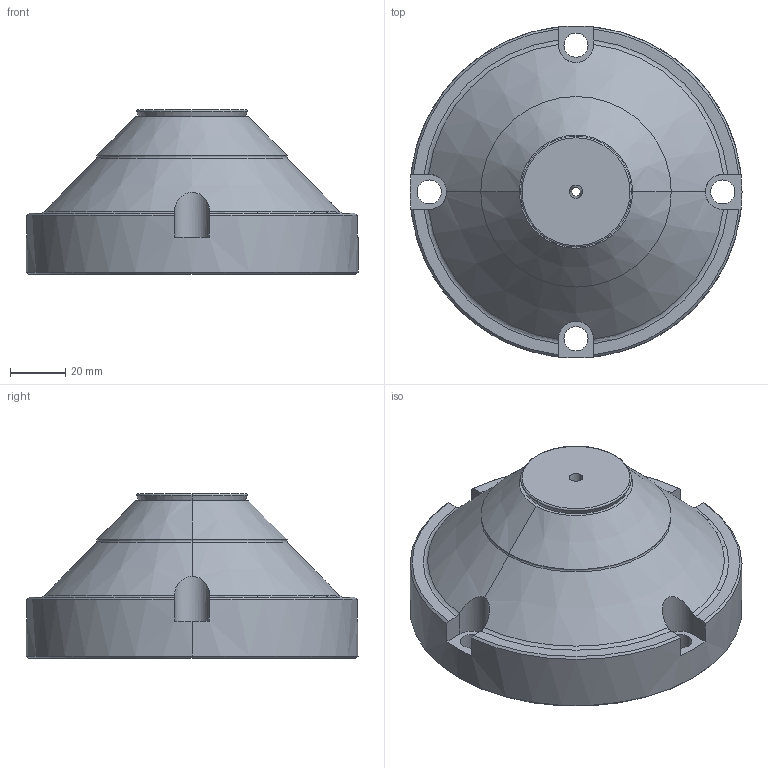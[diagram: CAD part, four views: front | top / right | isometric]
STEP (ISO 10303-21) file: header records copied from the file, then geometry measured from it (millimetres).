
FILE_DESCRIPTION((''),'2;1');
FILE_NAME('RMC-61302','2007-10-01T',('glafferty'),('Pleasant Precision, Inc. (419)675-0556'),'PRO/ENGINEER BY PARAMETRIC TECHNOLOGY CORPORATION, 2006080','PRO/ENGINEER BY PARAMETRIC TECHNOLOGY CORPORATION, 2006080','');
FILE_SCHEMA(('CONFIG_CONTROL_DESIGN'));
Length unit declared in the file: inch
Products named in the file (1): RMC-61302
Bounding box: 120.65 x 120.65 x 59.69 mm (x, y, z)
Volume: 247932.3 mm3; surface area: 42486.1 mm2
Topology: 1 solids, 1 shells, 65 faces, 168 edges, 106 vertices
Faces by surface type: plane 19, cone 18, cylinder 16, torus 10, sphere 2
Entity records: 2340 total; most frequent: CARTESIAN_POINT 681, DIRECTION 348, ORIENTED_EDGE 336, EDGE_CURVE 168, AXIS2_PLACEMENT_3D 145, VERTEX_POINT 106, CIRCLE 80, EDGE_LOOP 76
